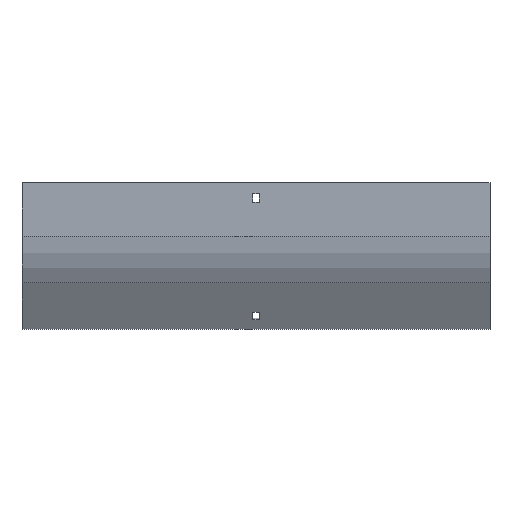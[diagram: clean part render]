
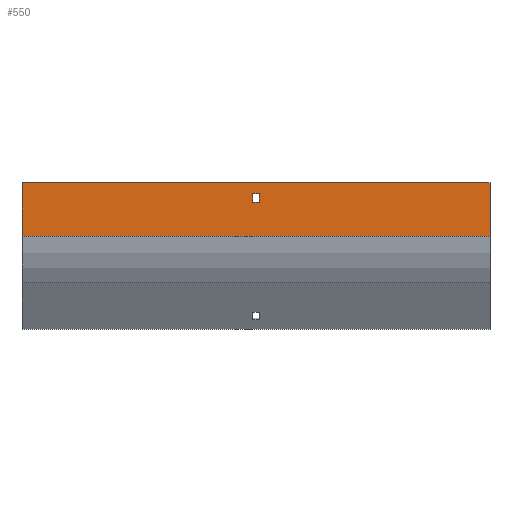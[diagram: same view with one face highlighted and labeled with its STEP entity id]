
A CAD part, front view. The second image highlights one B-rep face of the part: STEP entity #550.
In plain terms, the highlighted planar face has unit normal (0, -1, 0).
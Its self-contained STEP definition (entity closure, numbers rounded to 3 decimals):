
#6 = ORIENTED_EDGE ( 'NONE', *, *, #307, .F. ) ;
#23 = ORIENTED_EDGE ( 'NONE', *, *, #982, .T. ) ;
#37 = FACE_BOUND ( 'NONE', #1144, .T. ) ;
#118 = LINE ( 'NONE', #1943, #629 ) ;
#126 = DIRECTION ( 'NONE',  ( 0., 0., -1. ) ) ;
#157 = VECTOR ( 'NONE', #1234, 1000. ) ;
#164 = CARTESIAN_POINT ( 'NONE',  ( -252., -104., -57.867 ) ) ;
#271 = LINE ( 'NONE', #570, #598 ) ;
#297 = CARTESIAN_POINT ( 'NONE',  ( 252., -104., 0. ) ) ;
#307 = EDGE_CURVE ( 'NONE', #1919, #837, #886, .T. ) ;
#333 = CARTESIAN_POINT ( 'NONE',  ( -3.25, -104., -12. ) ) ;
#372 = DIRECTION ( 'NONE',  ( -1., 0., 0. ) ) ;
#376 = EDGE_CURVE ( 'NONE', #962, #1188, #1794, .T. ) ;
#380 = EDGE_LOOP ( 'NONE', ( #23, #1274, #6, #399 ) ) ;
#399 = ORIENTED_EDGE ( 'NONE', *, *, #1627, .T. ) ;
#445 = VECTOR ( 'NONE', #372, 1000. ) ;
#448 = CARTESIAN_POINT ( 'NONE',  ( -3.25, -104., -21. ) ) ;
#462 = DIRECTION ( 'NONE',  ( 0., 0., -1. ) ) ;
#515 = DIRECTION ( 'NONE',  ( 0., 0., 1. ) ) ;
#530 = EDGE_CURVE ( 'NONE', #1188, #702, #1666, .T. ) ;
#550 = ADVANCED_FACE ( 'NONE', ( #37, #651 ), #813, .F. ) ;
#570 = CARTESIAN_POINT ( 'NONE',  ( 252., -104., -57.867 ) ) ;
#592 = VECTOR ( 'NONE', #126, 1000. ) ;
#598 = VECTOR ( 'NONE', #731, 1000. ) ;
#629 = VECTOR ( 'NONE', #794, 1000. ) ;
#651 = FACE_OUTER_BOUND ( 'NONE', #380, .T. ) ;
#658 = CARTESIAN_POINT ( 'NONE',  ( 252., -104., -57.867 ) ) ;
#665 = VECTOR ( 'NONE', #755, 1000. ) ;
#689 = AXIS2_PLACEMENT_3D ( 'NONE', #922, #1074, #515 ) ;
#702 = VERTEX_POINT ( 'NONE', #448 ) ;
#731 = DIRECTION ( 'NONE',  ( -1., 0., 0. ) ) ;
#735 = EDGE_CURVE ( 'NONE', #702, #785, #118, .T. ) ;
#755 = DIRECTION ( 'NONE',  ( 0., 0., -1. ) ) ;
#784 = CARTESIAN_POINT ( 'NONE',  ( -3.25, -104., -21. ) ) ;
#785 = VERTEX_POINT ( 'NONE', #1808 ) ;
#794 = DIRECTION ( 'NONE',  ( 0., 0., 1. ) ) ;
#813 = PLANE ( 'NONE',  #689 ) ;
#837 = VERTEX_POINT ( 'NONE', #658 ) ;
#880 = VECTOR ( 'NONE', #462, 1000. ) ;
#886 = LINE ( 'NONE', #1478, #592 ) ;
#922 = CARTESIAN_POINT ( 'NONE',  ( 252., -104., -57.867 ) ) ;
#947 = LINE ( 'NONE', #164, #665 ) ;
#962 = VERTEX_POINT ( 'NONE', #1842 ) ;
#981 = EDGE_CURVE ( 'NONE', #785, #962, #1055, .T. ) ;
#982 = EDGE_CURVE ( 'NONE', #1280, #1286, #947, .T. ) ;
#1055 = LINE ( 'NONE', #333, #157 ) ;
#1074 = DIRECTION ( 'NONE',  ( 0., 1., 0. ) ) ;
#1140 = ORIENTED_EDGE ( 'NONE', *, *, #735, .T. ) ;
#1144 = EDGE_LOOP ( 'NONE', ( #1485, #1140, #1371, #1392 ) ) ;
#1188 = VERTEX_POINT ( 'NONE', #1933 ) ;
#1195 = DIRECTION ( 'NONE',  ( -1., 0., 0. ) ) ;
#1218 = CARTESIAN_POINT ( 'NONE',  ( -252., -104., -57.867 ) ) ;
#1234 = DIRECTION ( 'NONE',  ( 1., 0., 0. ) ) ;
#1274 = ORIENTED_EDGE ( 'NONE', *, *, #1890, .F. ) ;
#1280 = VERTEX_POINT ( 'NONE', #1671 ) ;
#1286 = VERTEX_POINT ( 'NONE', #1218 ) ;
#1354 = VECTOR ( 'NONE', #1195, 1000. ) ;
#1371 = ORIENTED_EDGE ( 'NONE', *, *, #981, .T. ) ;
#1392 = ORIENTED_EDGE ( 'NONE', *, *, #376, .T. ) ;
#1478 = CARTESIAN_POINT ( 'NONE',  ( 252., -104., -57.867 ) ) ;
#1485 = ORIENTED_EDGE ( 'NONE', *, *, #530, .T. ) ;
#1544 = CARTESIAN_POINT ( 'NONE',  ( 252., -104., 0. ) ) ;
#1624 = CARTESIAN_POINT ( 'NONE',  ( 3.25, -104., -21. ) ) ;
#1627 = EDGE_CURVE ( 'NONE', #1919, #1280, #1630, .T. ) ;
#1630 = LINE ( 'NONE', #297, #1354 ) ;
#1666 = LINE ( 'NONE', #784, #445 ) ;
#1671 = CARTESIAN_POINT ( 'NONE',  ( -252., -104., 0. ) ) ;
#1794 = LINE ( 'NONE', #1624, #880 ) ;
#1808 = CARTESIAN_POINT ( 'NONE',  ( -3.25, -104., -12. ) ) ;
#1842 = CARTESIAN_POINT ( 'NONE',  ( 3.25, -104., -12. ) ) ;
#1890 = EDGE_CURVE ( 'NONE', #837, #1286, #271, .T. ) ;
#1919 = VERTEX_POINT ( 'NONE', #1544 ) ;
#1933 = CARTESIAN_POINT ( 'NONE',  ( 3.25, -104., -21. ) ) ;
#1943 = CARTESIAN_POINT ( 'NONE',  ( -3.25, -104., -21. ) ) ;
